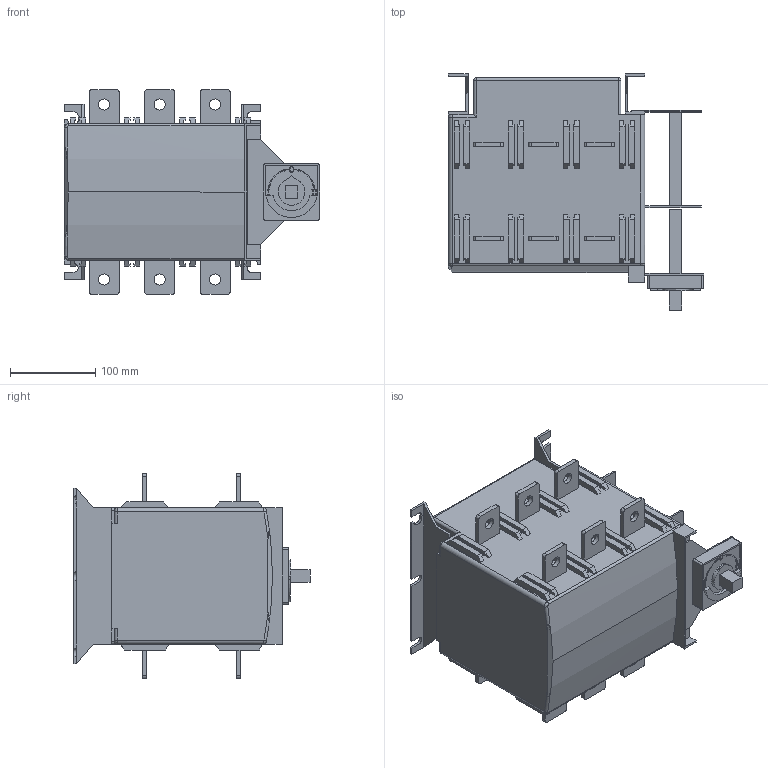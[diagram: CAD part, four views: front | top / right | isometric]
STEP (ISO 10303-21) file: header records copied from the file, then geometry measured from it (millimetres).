
FILE_DESCRIPTION((''),'2;1');
FILE_NAME('NH40-630-3CS','2021-09-05T',('shift'),(''),'CREO PARAMETRIC BY PTC INC, 2014500','CREO PARAMETRIC BY PTC INC, 2014500','');
FILE_SCHEMA(('AUTOMOTIVE_DESIGN { 1 0 10303 214 1 1 1 1 }'));
Length unit declared in the file: millimetre
Products named in the file (1): NH40-630-3CS
Bounding box: 298.75 x 276.5 x 240 mm (x, y, z)
Volume: 8280506.9 mm3; surface area: 410170.4 mm2
Topology: 1 solids, 1 shells, 650 faces, 1736 edges, 1140 vertices
Faces by surface type: plane 516, cylinder 93, extrusion 27, bspline 6, sphere 4, torus 4
Entity records: 20830 total; most frequent: CARTESIAN_POINT 4226, ORIENTED_EDGE 3464, DIRECTION 3103, EDGE_CURVE 1732, VECTOR 1493, LINE 1466, VERTEX_POINT 1140, AXIS2_PLACEMENT_3D 805
